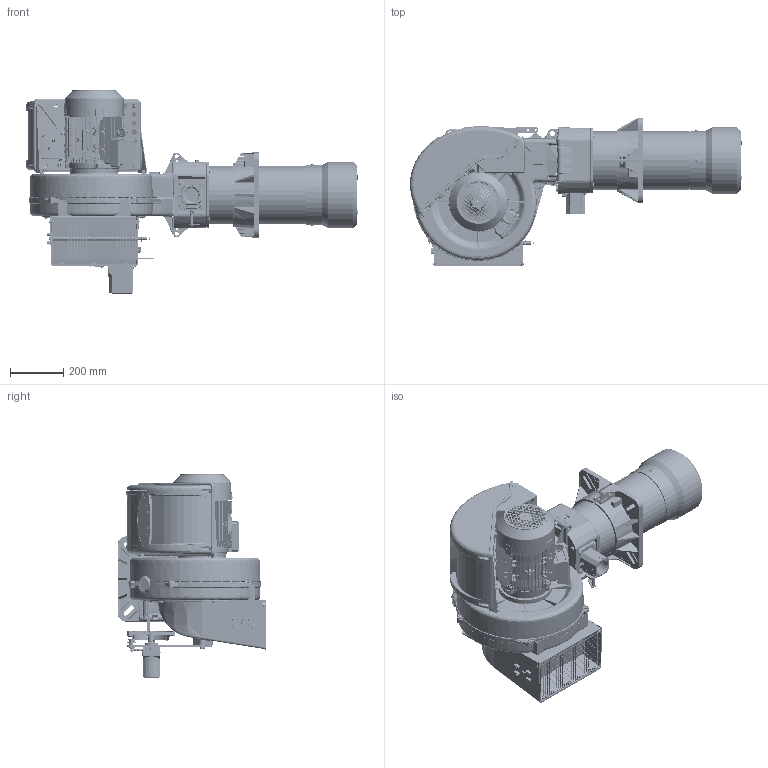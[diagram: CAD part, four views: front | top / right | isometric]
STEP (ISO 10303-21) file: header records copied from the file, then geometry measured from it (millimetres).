
FILE_DESCRIPTION (( 'STEP AP214' ), '1' );
FILE_NAME ('17760010-124647.STEP', '2017-09-19T14:32:58', ( '' ), ( '' ), 'SwSTEP 2.0', 'SolidWorks 2016', '' );
FILE_SCHEMA (( 'AUTOMOTIVE_DESIGN' ));
Length unit declared in the file: millimetre
Products named in the file (1): 17760010-124647
Bounding box: 1247.18 x 556.5 x 765.5 mm (x, y, z)
Surface area: 4143604.2 mm2 (no closed solid volume)
Topology: 0 solids, 382 shells, 5438 faces, 24543 edges, 18650 vertices
Faces by surface type: plane 2775, cylinder 1443, bspline 881, cone 238, torus 78, sphere 23
Full cylindrical faces by diameter (mm): 3.3 x1, 3.7 x5, 3.8 x1, 3.9 x2, 3.95 x1, 4 x6, 4.2 x8, 4.5 x1, 4.8 x1, 5 x20, 5.4 x1, 5.5 x1, 5.857 x1, 6 x7, 6.2 x3, 6.647 x1, 6.8 x2, 7.5 x2, 8 x23, 8.2 x1, 8.3 x2, 8.5 x1, 8.8 x1, 9 x1, 9.5 x9, 10 x7, 10.2 x2, 11.9 x1, 12 x4, 12.5 x1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
Entity records: 430871 total; most frequent: CARTESIAN_POINT 232391, ORIENTED_EDGE 33234, DIRECTION 25900, EDGE_CURVE 24089, VERTEX_POINT 18545, LINE 11010, VECTOR 11010, B_SPLINE_CURVE_WITH_KNOTS 9868
